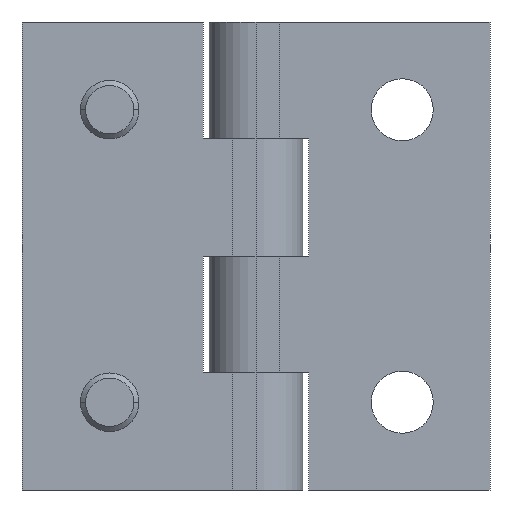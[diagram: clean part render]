
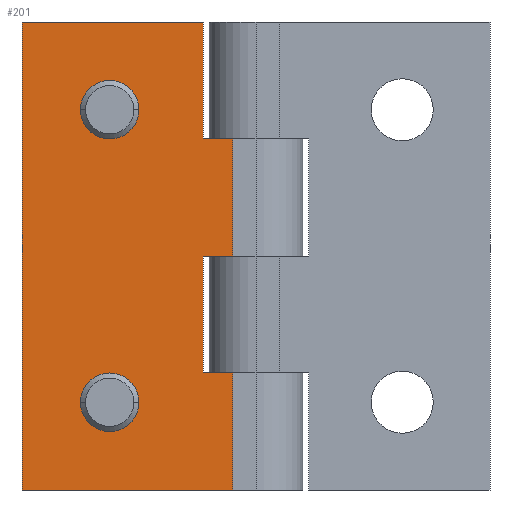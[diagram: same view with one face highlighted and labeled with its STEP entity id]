
A CAD part, front view. The second image highlights one B-rep face of the part: STEP entity #201.
In plain terms, the highlighted planar face has unit normal (0, -1, 0).
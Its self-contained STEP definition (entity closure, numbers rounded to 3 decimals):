
#201=ADVANCED_FACE('',(#369,#370,#371),#372,.T.);
#369=FACE_BOUND('',#542,.T.);
#370=FACE_BOUND('',#543,.T.);
#371=FACE_OUTER_BOUND('',#544,.T.);
#372=PLANE('',#545);
#542=EDGE_LOOP('',(#1192,#1193));
#543=EDGE_LOOP('',(#1194,#1195));
#544=EDGE_LOOP('',(#1196,#1197,#1198,#1199,#1200,#1201,#1202,#1203,#1204,#1205));
#545=AXIS2_PLACEMENT_3D('',#1206,#1207,#1208);
#1192=ORIENTED_EDGE('',*,*,#1367,.T.);
#1193=ORIENTED_EDGE('',*,*,#1370,.T.);
#1194=ORIENTED_EDGE('',*,*,#1360,.T.);
#1195=ORIENTED_EDGE('',*,*,#1373,.T.);
#1196=ORIENTED_EDGE('',*,*,#1380,.T.);
#1197=ORIENTED_EDGE('',*,*,#1445,.F.);
#1198=ORIENTED_EDGE('',*,*,#1437,.T.);
#1199=ORIENTED_EDGE('',*,*,#1442,.T.);
#1200=ORIENTED_EDGE('',*,*,#1452,.T.);
#1201=ORIENTED_EDGE('',*,*,#1450,.T.);
#1202=ORIENTED_EDGE('',*,*,#1453,.T.);
#1203=ORIENTED_EDGE('',*,*,#1403,.F.);
#1204=ORIENTED_EDGE('',*,*,#1402,.T.);
#1205=ORIENTED_EDGE('',*,*,#1391,.T.);
#1206=CARTESIAN_POINT('',(-20.0,0.0,40.0));
#1207=DIRECTION('',(0.0,-1.0,0.0));
#1208=DIRECTION('',(-1.0,0.0,0.));
#1360=EDGE_CURVE('',#1667,#1665,#1668,.T.);
#1367=EDGE_CURVE('',#1680,#1678,#1681,.T.);
#1370=EDGE_CURVE('',#1678,#1680,#1684,.T.);
#1373=EDGE_CURVE('',#1665,#1667,#1687,.T.);
#1380=EDGE_CURVE('',#1696,#1693,#1697,.T.);
#1391=EDGE_CURVE('',#1717,#1696,#1718,.T.);
#1402=EDGE_CURVE('',#1721,#1717,#1738,.T.);
#1403=EDGE_CURVE('',#1721,#1739,#1740,.T.);
#1437=EDGE_CURVE('',#1793,#1791,#1794,.T.);
#1442=EDGE_CURVE('',#1791,#1800,#1802,.T.);
#1445=EDGE_CURVE('',#1793,#1693,#1805,.T.);
#1450=EDGE_CURVE('',#1813,#1811,#1814,.T.);
#1452=EDGE_CURVE('',#1800,#1813,#1816,.T.);
#1453=EDGE_CURVE('',#1811,#1739,#1817,.T.);
#1665=VERTEX_POINT('',#2120);
#1667=VERTEX_POINT('',#2123);
#1668=CIRCLE('',#2124,2.5);
#1678=VERTEX_POINT('',#2137);
#1680=VERTEX_POINT('',#2140);
#1681=CIRCLE('',#2141,2.5);
#1684=CIRCLE('',#2145,2.5);
#1687=CIRCLE('',#2148,2.5);
#1693=VERTEX_POINT('',#2154);
#1696=VERTEX_POINT('',#2158);
#1697=LINE('',#2159,#2160);
#1717=VERTEX_POINT('',#2189);
#1718=LINE('',#2190,#2191);
#1721=VERTEX_POINT('',#2195);
#1738=LINE('',#2220,#2221);
#1739=VERTEX_POINT('',#2222);
#1740=LINE('',#2223,#2224);
#1791=VERTEX_POINT('',#2306);
#1793=VERTEX_POINT('',#2309);
#1794=LINE('',#2310,#2311);
#1800=VERTEX_POINT('',#2319);
#1802=LINE('',#2322,#2323);
#1805=LINE('',#2328,#2329);
#1811=VERTEX_POINT('',#2338);
#1813=VERTEX_POINT('',#2341);
#1814=LINE('',#2342,#2343);
#1816=LINE('',#2346,#2347);
#1817=LINE('',#2348,#2349);
#2120=CARTESIAN_POINT('',(-15.0,0.,7.5));
#2123=CARTESIAN_POINT('',(-10.0,0.,7.5));
#2124=AXIS2_PLACEMENT_3D('',#2544,#2545,#2546);
#2137=CARTESIAN_POINT('',(-15.0,0.0,32.5));
#2140=CARTESIAN_POINT('',(-10.0,0.,32.5));
#2141=AXIS2_PLACEMENT_3D('',#2557,#2558,#2559);
#2145=AXIS2_PLACEMENT_3D('',#2564,#2565,#2566);
#2148=AXIS2_PLACEMENT_3D('',#2573,#2574,#2575);
#2154=CARTESIAN_POINT('',(-2.0,0.0,20.0));
#2158=CARTESIAN_POINT('',(-4.5,0.0,20.0));
#2159=CARTESIAN_POINT('',(-7.25,0.0,20.0));
#2160=VECTOR('',#2592,1.0);
#2189=CARTESIAN_POINT('',(-4.5,0.0,10.0));
#2190=CARTESIAN_POINT('',(-4.5,0.0,27.5));
#2191=VECTOR('',#2605,1.0);
#2195=CARTESIAN_POINT('',(-2.0,0.0,10.0));
#2220=CARTESIAN_POINT('',(-7.25,0.0,10.0));
#2221=VECTOR('',#2618,1.0);
#2222=CARTESIAN_POINT('',(-2.0,0.0,0.0));
#2223=CARTESIAN_POINT('',(-2.0,0.0,40.0));
#2224=VECTOR('',#2619,1.0);
#2306=CARTESIAN_POINT('',(-4.5,0.0,30.0));
#2309=CARTESIAN_POINT('',(-2.0,0.0,30.0));
#2310=CARTESIAN_POINT('',(-7.25,0.0,30.0));
#2311=VECTOR('',#2655,1.0);
#2319=CARTESIAN_POINT('',(-4.5,0.0,40.0));
#2322=CARTESIAN_POINT('',(-4.5,0.0,37.5));
#2323=VECTOR('',#2662,1.0);
#2328=CARTESIAN_POINT('',(-2.0,0.0,40.0));
#2329=VECTOR('',#2665,1.0);
#2338=CARTESIAN_POINT('',(-20.0,0.0,0.0));
#2341=CARTESIAN_POINT('',(-20.0,0.0,40.0));
#2342=CARTESIAN_POINT('',(-20.0,0.0,40.0));
#2343=VECTOR('',#2670,1.0);
#2346=CARTESIAN_POINT('',(-2.0,0.0,40.0));
#2347=VECTOR('',#2672,1.0);
#2348=CARTESIAN_POINT('',(-2.0,0.0,0.0));
#2349=VECTOR('',#2673,1.0);
#2544=CARTESIAN_POINT('',(-12.5,0.,7.5));
#2545=DIRECTION('',(0.0,1.0,0.0));
#2546=DIRECTION('',(-1.0,0.0,0.));
#2557=CARTESIAN_POINT('',(-12.5,0.0,32.5));
#2558=DIRECTION('',(0.0,1.0,0.0));
#2559=DIRECTION('',(-1.0,0.0,0.));
#2564=CARTESIAN_POINT('',(-12.5,0.0,32.5));
#2565=DIRECTION('',(0.0,1.0,0.0));
#2566=DIRECTION('',(-1.0,0.0,0.));
#2573=CARTESIAN_POINT('',(-12.5,0.,7.5));
#2574=DIRECTION('',(0.0,1.0,0.0));
#2575=DIRECTION('',(-1.0,0.0,0.));
#2592=DIRECTION('',(1.0,0.0,0.0));
#2605=DIRECTION('',(0.0,0.0,1.0));
#2618=DIRECTION('',(-1.0,0.0,0.0));
#2619=DIRECTION('',(0.,0.0,-1.0));
#2655=DIRECTION('',(-1.0,0.0,0.0));
#2662=DIRECTION('',(0.0,0.0,1.0));
#2665=DIRECTION('',(0.,0.0,-1.0));
#2670=DIRECTION('',(0.,0.0,-1.0));
#2672=DIRECTION('',(-1.0,0.0,0.));
#2673=DIRECTION('',(1.0,0.0,0.));
